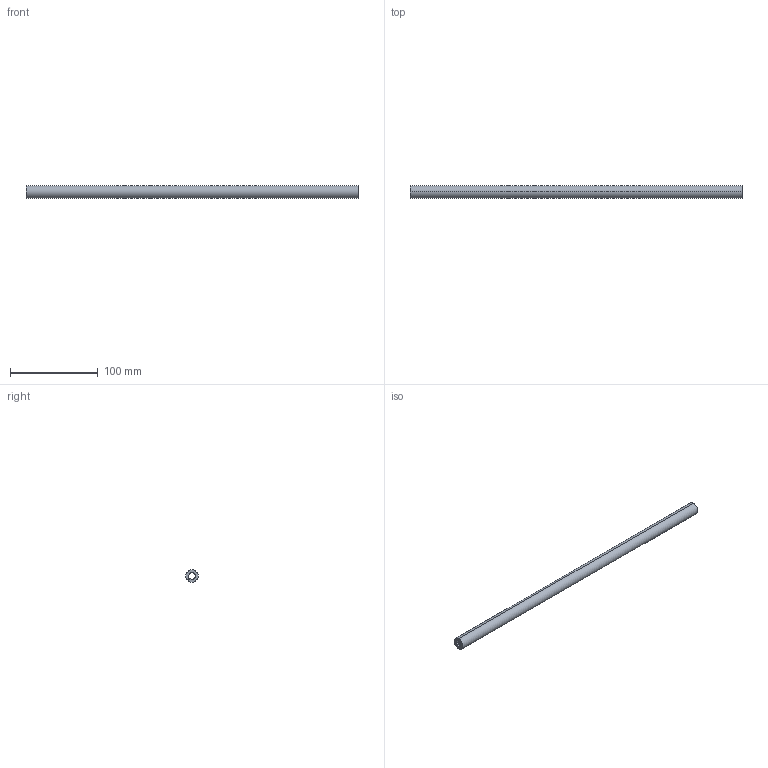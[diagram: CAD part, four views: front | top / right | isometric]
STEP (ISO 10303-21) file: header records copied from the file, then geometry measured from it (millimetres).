
FILE_DESCRIPTION (( 'STEP AP214' ), '1' );
FILE_NAME ('SyncronisationsstangeNova_Pro_KAB_0500_KS16.step', '2009-11-24T08:53:14', ( 'Grass' ), ( 'Grass GmbH' ), 'SwSTEP 2.0', 'SolidWorks 2009', '' );
FILE_SCHEMA (( 'AUTOMOTIVE_DESIGN' ));
Length unit declared in the file: millimetre
Products named in the file (1): SyncronisationsstangeNova_Pro_KAB_0500_KS16
Bounding box: 379 x 14 x 14 mm (x, y, z)
Volume: 40981.2 mm3; surface area: 26542.8 mm2
Topology: 1 solids, 1 shells, 15 faces, 39 edges, 26 vertices
Faces by surface type: cylinder 11, plane 4
Entity records: 513 total; most frequent: DIRECTION 93, CARTESIAN_POINT 81, ORIENTED_EDGE 78, EDGE_CURVE 39, AXIS2_PLACEMENT_3D 38, VERTEX_POINT 26, CIRCLE 22, VECTOR 17
